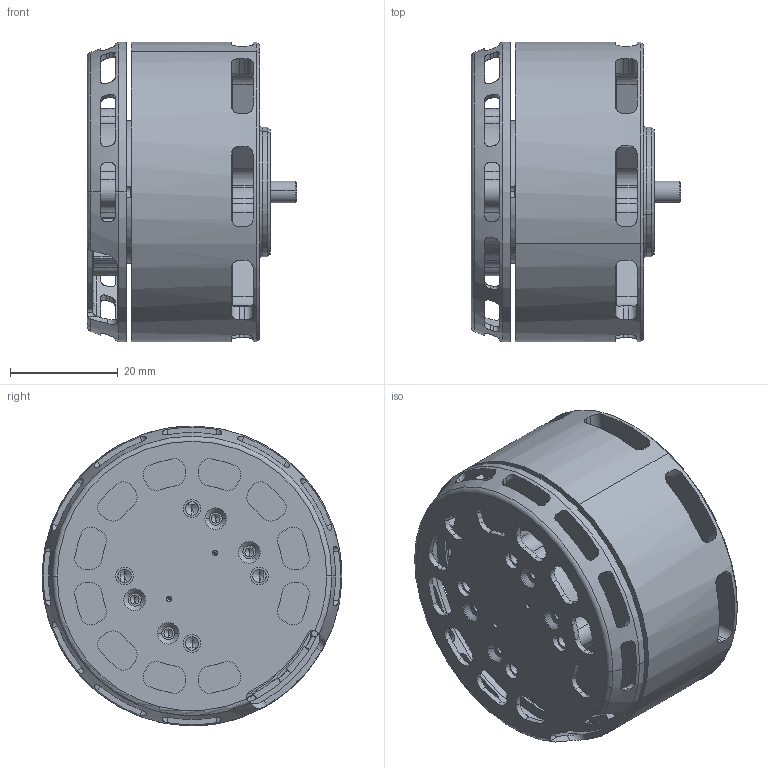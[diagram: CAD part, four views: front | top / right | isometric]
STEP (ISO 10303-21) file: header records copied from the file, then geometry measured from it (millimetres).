
FILE_DESCRIPTION (( 'STEP AP214' ), '1' );
FILE_NAME ('VL5015萇赽隅蔑.STEP', '2024-09-12T06:15:30', ( '' ), ( '' ), 'SwSTEP 2.0', 'SolidWorks 2021', '' );
FILE_SCHEMA (( 'AUTOMOTIVE_DESIGN' ));
Length unit declared in the file: millimetre
Products named in the file (1): VL5015萇赽隅蔑
Bounding box: 38.85 x 55.6 x 55.6 mm (x, y, z)
Volume: 43225.4 mm3; surface area: 31804.8 mm2
Topology: 1 solids, 10 shells, 1478 faces, 4390 edges, 2766 vertices
Faces by surface type: cylinder 653, plane 443, torus 170, sphere 104, cone 103, bspline 5
Entity records: 69962 total; most frequent: CARTESIAN_POINT 15066, ORIENTED_EDGE 8432, DIRECTION 8042, EDGE_CURVE 4216, AXIS2_PLACEMENT_3D 3244, VERTEX_POINT 2714, CIRCLE 1770, EDGE_LOOP 1604
